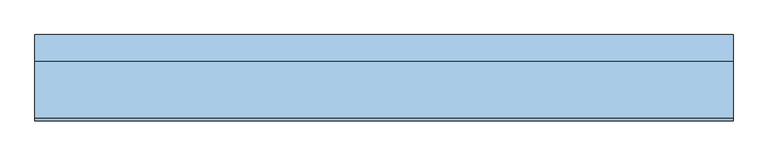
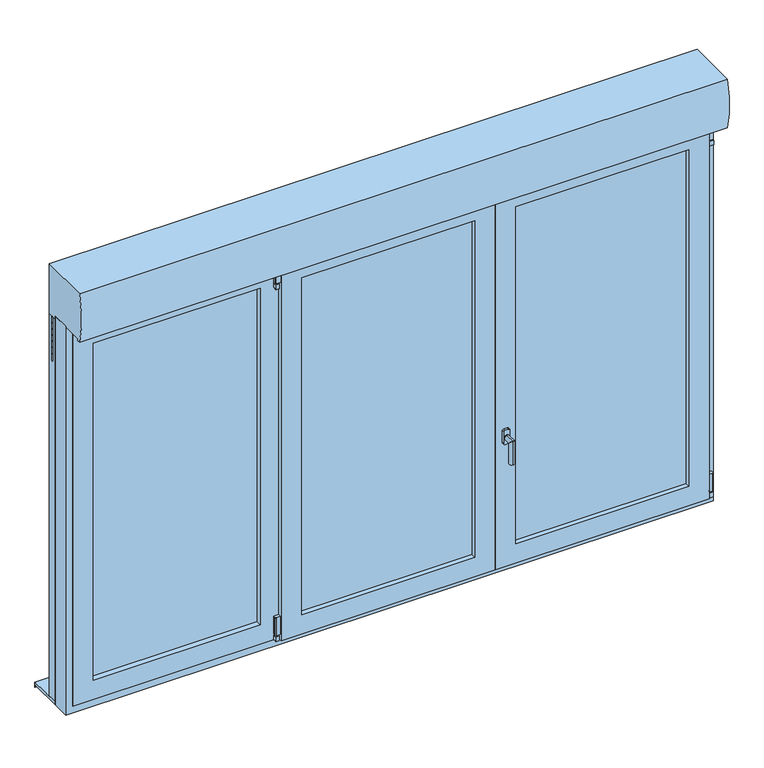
"""IFC4 building model written with IfcOpenShell, lengths in millimetres: window geometry, 4. OF2 + Fixe à G ENR PVC-ALU : OF3 260X165 (LXH) cm + PB."""

from ifc_helpers import new_model, si_unit, point, frame, frame_2d, origin, place, context, project, spatial, polyline, circle_curve, ellipse_curve, trimmed, segment, composite_curve, outline, extrude, faceted_brep, source, transform, mapped, element, save
from ifc_brep_helpers import plane_surface, cylinder_surface, advanced_brep


def window_a7aff2f7(model_context):
    return source(origin(), model_context, "Body", "SolidModel", [
        extrude(outline(composite_curve([segment(trimmed(circle_curve(frame_2d((-458.2805562, -107.5530691)), 5.0), [point((-453.2805562, -107.5530691))], [point((-463.2805562, -107.5530691))], False, "CARTESIAN"), True, "CONTINUOUS"), segment(trimmed(circle_curve(frame_2d((-458.2805562, -107.5530691)), 5.0), [point((-463.2805562, -107.5530691))], [point((-453.2805562, -107.5530691))], False, "CARTESIAN"), True, "CONTINUOUS")], self_intersect=False)), frame((0.0, 0.0, 848.448), z_axis=(0.0, 0.0, 1.0), x_axis=(1.0, 0.0, 0.0)), (0.0, 0.0, 1.0), 5.0),
        extrude(outline(composite_curve([segment(polyline([(848.448, -465.7805562), (830.0982054, -465.7805562)]), True, "CONTINUOUS"), segment(trimmed(circle_curve(frame_2d((830.4216694, -463.8068867)), 2.0), [point((830.0982054, -465.7805562))], [point((828.448, -464.1303507))], False, "CARTESIAN"), True, "CONTINUOUS"), segment(polyline([(828.448, -464.1303507), (828.448, -452.7898059)]), True, "CONTINUOUS"), segment(trimmed(circle_curve(frame_2d((830.4572498, -452.7898059)), 2.0092498), [point((828.448, -452.7898059))], [point((830.4572498, -450.7805562))], False, "CARTESIAN"), True, "CONTINUOUS"), segment(polyline([(830.4572498, -450.7805562), (848.448, -450.7805562), (848.448, -465.7805562)]), True, "CONTINUOUS")], self_intersect=False)), frame((0.0, -115.0434807, 0.0), z_axis=(0.0, 1.0, 0.0), x_axis=(0.0, 0.0, 1.0)), (0.0, 0.0, 1.0), 15.0),
        extrude(outline(composite_curve([segment(polyline([(-445.56, -100.0530691), (-445.56, -115.0530691), (-463.5418225, -115.0530691)]), True, "CONTINUOUS"), segment(trimmed(circle_curve(frame_2d((-463.5418225, -113.0348917)), 2.0181775), [point((-463.5418225, -115.0530691))], [point((-465.56, -113.0348917))], False, "CARTESIAN"), True, "CONTINUOUS"), segment(polyline([(-465.56, -113.0348917), (-465.56, -102.0112454)]), True, "CONTINUOUS"), segment(trimmed(circle_curve(frame_2d((-463.6018237, -102.0112454)), 1.9581763), [point((-465.56, -102.0112454))], [point((-463.6018237, -100.0530691))], False, "CARTESIAN"), True, "CONTINUOUS"), segment(polyline([(-463.6018237, -100.0530691), (-445.56, -100.0530691)]), True, "CONTINUOUS")], self_intersect=False)), frame((0.0, 0.0, 853.448), z_axis=(0.0, 0.0, 1.0), x_axis=(1.0, 0.0, 0.0)), (0.0, 0.0, 1.0), 75.0),
        extrude(outline(composite_curve([segment(polyline([(2401.552, -450.56), (2419.5843246, -450.56)]), True, "CONTINUOUS"), segment(trimmed(circle_curve(frame_2d((2419.5843246, -452.5276754)), 1.9676754), [point((2419.5843246, -450.56))], [point((2421.552, -452.5276754))], False, "CARTESIAN"), True, "CONTINUOUS"), segment(polyline([(2421.552, -452.5276754), (2421.552, -463.5663831)]), True, "CONTINUOUS"), segment(trimmed(circle_curve(frame_2d((2419.5583831, -463.5663831)), 1.9936169), [point((2421.552, -463.5663831))], [point((2419.5583831, -465.56))], False, "CARTESIAN"), True, "CONTINUOUS"), segment(polyline([(2419.5583831, -465.56), (2401.552, -465.56), (2401.552, -450.56)]), True, "CONTINUOUS")], self_intersect=False)), frame((0.0, -115.881543, 0.0), z_axis=(0.0, 1.0, 0.0), x_axis=(0.0, 0.0, 1.0)), (0.0, 0.0, 1.0), 15.0),
        extrude(outline(composite_curve([segment(trimmed(circle_curve(frame_2d((-458.2805562, -108.3911314)), 5.0), [point((-453.2805562, -108.3911314))], [point((-463.2805562, -108.3911314))], False, "CARTESIAN"), True, "CONTINUOUS"), segment(trimmed(circle_curve(frame_2d((-458.2805562, -108.3911314)), 5.0), [point((-463.2805562, -108.3911314))], [point((-453.2805562, -108.3911314))], False, "CARTESIAN"), True, "CONTINUOUS")], self_intersect=False)), frame((0.0, 0.0, 2341.552), z_axis=(0.0, 0.0, 1.0), x_axis=(1.0, 0.0, 0.0)), (0.0, 0.0, 1.0), 60.0),
        extrude(outline(composite_curve([segment(polyline([(-445.56, -100.8911314), (-445.56, -115.8911314), (-463.5418225, -115.8911314)]), True, "CONTINUOUS"), segment(trimmed(circle_curve(frame_2d((-463.5418225, -113.8729539)), 2.0181775), [point((-463.5418225, -115.8911314))], [point((-465.56, -113.8729539))], False, "CARTESIAN"), True, "CONTINUOUS"), segment(polyline([(-465.56, -113.8729539), (-465.56, -102.8493076)]), True, "CONTINUOUS"), segment(trimmed(circle_curve(frame_2d((-463.6018237, -102.8493076)), 1.9581763), [point((-465.56, -102.8493076))], [point((-463.6018237, -100.8911314))], False, "CARTESIAN"), True, "CONTINUOUS"), segment(polyline([(-463.6018237, -100.8911314), (-445.56, -100.8911314)]), True, "CONTINUOUS")], self_intersect=False)), frame((0.0, 0.0, 2347.2784618), z_axis=(0.0, 0.0, 1.0), x_axis=(1.0, 0.0, 0.0)), (0.0, 0.0, 1.0), 50.0),
        extrude(outline(composite_curve([segment(polyline([(2342.2784618, -465.7805562), (2323.9286672, -465.7805562)]), True, "CONTINUOUS"), segment(trimmed(circle_curve(frame_2d((2324.2521312, -463.8068867)), 2.0), [point((2323.9286672, -465.7805562))], [point((2322.2784618, -464.1303507))], False, "CARTESIAN"), True, "CONTINUOUS"), segment(polyline([(2322.2784618, -464.1303507), (2322.2784618, -452.7898059)]), True, "CONTINUOUS"), segment(trimmed(circle_curve(frame_2d((2324.2877116, -452.7898059)), 2.0092498), [point((2322.2784618, -452.7898059))], [point((2324.2877116, -450.7805562))], False, "CARTESIAN"), True, "CONTINUOUS"), segment(polyline([(2324.2877116, -450.7805562), (2342.2784618, -450.7805562), (2342.2784618, -465.7805562)]), True, "CONTINUOUS")], self_intersect=False)), frame((0.0, -115.881543, 0.0), z_axis=(0.0, 1.0, 0.0), x_axis=(0.0, 0.0, 1.0)), (0.0, 0.0, 1.0), 15.0),
        extrude(outline(composite_curve([segment(polyline([(2401.552, 1276.56), (2401.552, 1291.56), (2419.5583831, 1291.56)]), True, "CONTINUOUS"), segment(trimmed(circle_curve(frame_2d((2419.5583831, 1289.5663831)), 1.9936169), [point((2419.5583831, 1291.56))], [point((2421.552, 1289.5663831))], False, "CARTESIAN"), True, "CONTINUOUS"), segment(polyline([(2421.552, 1289.5663831), (2421.552, 1278.5276754)]), True, "CONTINUOUS"), segment(trimmed(circle_curve(frame_2d((2419.5843246, 1278.5276754)), 1.9676754), [point((2421.552, 1278.5276754))], [point((2419.5843246, 1276.56))], False, "CARTESIAN"), True, "CONTINUOUS"), segment(polyline([(2419.5843246, 1276.56), (2401.552, 1276.56)]), True, "CONTINUOUS")], self_intersect=False)), frame((0.0, -115.881543, 0.0), z_axis=(0.0, 1.0, 0.0), x_axis=(0.0, 0.0, 1.0)), (0.0, 0.0, 1.0), 15.0),
        extrude(outline(composite_curve([segment(trimmed(circle_curve(frame_2d((1284.2805562, -108.3911314)), 5.0), [point((1279.2805562, -108.3911314))], [point((1289.2805562, -108.3911314))], False, "CARTESIAN"), True, "CONTINUOUS"), segment(trimmed(circle_curve(frame_2d((1284.2805562, -108.3911314)), 5.0), [point((1289.2805562, -108.3911314))], [point((1279.2805562, -108.3911314))], False, "CARTESIAN"), True, "CONTINUOUS")], self_intersect=False)), frame((0.0, 0.0, 2341.552), z_axis=(0.0, 0.0, 1.0), x_axis=(1.0, 0.0, 0.0)), (0.0, 0.0, 1.0), 60.0),
        extrude(outline(composite_curve([segment(polyline([(1271.56, -100.8911314), (1289.6018237, -100.8911314)]), True, "CONTINUOUS"), segment(trimmed(circle_curve(frame_2d((1289.6018237, -102.8493076)), 1.9581763), [point((1289.6018237, -100.8911314))], [point((1291.56, -102.8493076))], False, "CARTESIAN"), True, "CONTINUOUS"), segment(polyline([(1291.56, -102.8493076), (1291.56, -113.8729539)]), True, "CONTINUOUS"), segment(trimmed(circle_curve(frame_2d((1289.5418225, -113.8729539)), 2.0181775), [point((1291.56, -113.8729539))], [point((1289.5418225, -115.8911314))], False, "CARTESIAN"), True, "CONTINUOUS"), segment(polyline([(1289.5418225, -115.8911314), (1271.56, -115.8911314), (1271.56, -100.8911314)]), True, "CONTINUOUS")], self_intersect=False)), frame((0.0, 0.0, 2347.2784618), z_axis=(0.0, 0.0, 1.0), x_axis=(1.0, 0.0, 0.0)), (0.0, 0.0, 1.0), 50.0),
        extrude(outline(composite_curve([segment(polyline([(2342.2784618, 1291.7805562), (2342.2784618, 1276.7805562), (2324.2877116, 1276.7805562)]), True, "CONTINUOUS"), segment(trimmed(circle_curve(frame_2d((2324.2877116, 1278.7898059)), 2.0092498), [point((2324.2877116, 1276.7805562))], [point((2322.2784618, 1278.7898059))], False, "CARTESIAN"), True, "CONTINUOUS"), segment(polyline([(2322.2784618, 1278.7898059), (2322.2784618, 1290.1303507)]), True, "CONTINUOUS"), segment(trimmed(circle_curve(frame_2d((2324.2521312, 1289.8068867)), 2.0), [point((2322.2784618, 1290.1303507))], [point((2323.9286672, 1291.7805562))], False, "CARTESIAN"), True, "CONTINUOUS"), segment(polyline([(2323.9286672, 1291.7805562), (2342.2784618, 1291.7805562)]), True, "CONTINUOUS")], self_intersect=False)), frame((0.0, -115.881543, 0.0), z_axis=(0.0, 1.0, 0.0), x_axis=(0.0, 0.0, 1.0)), (0.0, 0.0, 1.0), 15.0),
        extrude(outline(composite_curve([segment(trimmed(circle_curve(frame_2d((1284.2805562, -107.5530691)), 5.0), [point((1279.2805562, -107.5530691))], [point((1289.2805562, -107.5530691))], False, "CARTESIAN"), True, "CONTINUOUS"), segment(trimmed(circle_curve(frame_2d((1284.2805562, -107.5530691)), 5.0), [point((1289.2805562, -107.5530691))], [point((1279.2805562, -107.5530691))], False, "CARTESIAN"), True, "CONTINUOUS")], self_intersect=False)), frame((0.0, 0.0, 848.448), z_axis=(0.0, 0.0, 1.0), x_axis=(1.0, 0.0, 0.0)), (0.0, 0.0, 1.0), 5.0),
        extrude(outline(composite_curve([segment(polyline([(848.448, 1291.7805562), (848.448, 1276.7805562), (830.4572498, 1276.7805562)]), True, "CONTINUOUS"), segment(trimmed(circle_curve(frame_2d((830.4572498, 1278.7898059)), 2.0092498), [point((830.4572498, 1276.7805562))], [point((828.448, 1278.7898059))], False, "CARTESIAN"), True, "CONTINUOUS"), segment(polyline([(828.448, 1278.7898059), (828.448, 1290.1303507)]), True, "CONTINUOUS"), segment(trimmed(circle_curve(frame_2d((830.4216694, 1289.8068867)), 2.0), [point((828.448, 1290.1303507))], [point((830.0982054, 1291.7805562))], False, "CARTESIAN"), True, "CONTINUOUS"), segment(polyline([(830.0982054, 1291.7805562), (848.448, 1291.7805562)]), True, "CONTINUOUS")], self_intersect=False)), frame((0.0, -115.0434807, 0.0), z_axis=(0.0, 1.0, 0.0), x_axis=(0.0, 0.0, 1.0)), (0.0, 0.0, 1.0), 15.0),
        extrude(outline(composite_curve([segment(polyline([(1271.56, -100.0530691), (1289.6018237, -100.0530691)]), True, "CONTINUOUS"), segment(trimmed(circle_curve(frame_2d((1289.6018237, -102.0112454)), 1.9581763), [point((1289.6018237, -100.0530691))], [point((1291.56, -102.0112454))], False, "CARTESIAN"), True, "CONTINUOUS"), segment(polyline([(1291.56, -102.0112454), (1291.56, -113.0348917)]), True, "CONTINUOUS"), segment(trimmed(circle_curve(frame_2d((1289.5418225, -113.0348917)), 2.0181775), [point((1291.56, -113.0348917))], [point((1289.5418225, -115.0530691))], False, "CARTESIAN"), True, "CONTINUOUS"), segment(polyline([(1289.5418225, -115.0530691), (1271.56, -115.0530691), (1271.56, -100.0530691)]), True, "CONTINUOUS")], self_intersect=False)), frame((0.0, 0.0, 853.448), z_axis=(0.0, 0.0, 1.0), x_axis=(1.0, 0.0, 0.0)), (0.0, 0.0, 1.0), 75.0),
        advanced_brep(
        [(461.5, -129.3239543, 1414.448), (446.5, -129.3239543, 1414.448), (441.5, -129.3239543, 1409.448), (441.5, -129.3239543, 1359.448), (446.5, -129.3239543, 1354.448), (461.5, -129.3239543, 1354.448), (466.5, -129.3239543, 1359.448), (466.5, -129.3239543, 1409.448), (454.2771873, -129.3239543, 1392.2518349), (454.2771873, -129.3239543, 1372.2518349), (461.5, -117.4674689, 1414.448), (466.5, -117.4674689, 1409.448), (466.5, -117.4674689, 1359.448), (461.5, -117.4674689, 1354.448), (446.5, -117.4674689, 1354.448), (441.5, -117.4674689, 1359.448), (441.5, -117.4674689, 1409.448), (446.5, -117.4674689, 1414.448), (454.2771873, -133.0531938, 1372.2518349), (454.2771873, -133.0531938, 1392.2518349), (454.2771873, -173.0531938, 1392.2518349), (454.2771873, -153.0531938, 1372.2518349), (454.2771873, -173.0531938, 1292.2518349), (454.2771873, -153.0531938, 1292.2518349)],
        [
            (0, 1),
            (1, 2, circle_curve(frame((446.5, -129.3239543, 1409.448), z_axis=(0.0, -1.0, 0.0), x_axis=(-1.0, 0.0, 0.0)), 5.0)),
            (2, 3),
            (3, 4, circle_curve(frame((446.5, -129.3239543, 1359.448), z_axis=(0.0, -1.0, 0.0), x_axis=(-1.0, 0.0, 0.0)), 5.0)),
            (4, 5),
            (5, 6, circle_curve(frame((461.5, -129.3239543, 1359.448), z_axis=(0.0, -1.0, 0.0), x_axis=(-1.0, 0.0, 0.0)), 5.0)),
            (6, 7),
            (7, 0, circle_curve(frame((461.5, -129.3239543, 1409.448), z_axis=(0.0, -1.0, 0.0), x_axis=(-1.0, 0.0, 0.0)), 5.0)),
            (8, 9, circle_curve(frame((454.2771873, -129.3239543, 1382.2518349), z_axis=(0.0, 1.0, 0.0), x_axis=(0.0, 0.0, -1.0)), 10.0)),
            (9, 8, circle_curve(frame((454.2771873, -129.3239543, 1382.2518349), z_axis=(0.0, 1.0, 0.0), x_axis=(0.0, 0.0, -1.0)), 10.0)),
            (10, 11, circle_curve(frame((461.5, -117.4674689, 1409.448), z_axis=(0.0, 1.0, 0.0), x_axis=(-1.0, 0.0, 0.0)), 5.0)),
            (11, 12),
            (12, 13, circle_curve(frame((461.5, -117.4674689, 1359.448), z_axis=(0.0, 1.0, 0.0), x_axis=(-1.0, 0.0, 0.0)), 5.0)),
            (13, 14),
            (14, 15, circle_curve(frame((446.5, -117.4674689, 1359.448), z_axis=(0.0, 1.0, 0.0), x_axis=(-1.0, 0.0, 0.0)), 5.0)),
            (15, 16),
            (16, 17, circle_curve(frame((446.5, -117.4674689, 1409.448), z_axis=(0.0, 1.0, 0.0), x_axis=(-1.0, 0.0, 0.0)), 5.0)),
            (17, 10),
            (7, 11),
            (10, 0),
            (6, 12),
            (5, 13),
            (4, 14),
            (3, 15),
            (2, 16),
            (1, 17),
            (18, 19, circle_curve(frame((454.2771873, -133.0531938, 1382.2518349), z_axis=(0.0, -1.0, 0.0), x_axis=(0.0, 0.0, -1.0)), 10.0)),
            (19, 20),
            (20, 21, ellipse_curve(frame((454.2771873, -163.0531938, 1382.2518349), z_axis=(0.0, 0.7071067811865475, 0.7071067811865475), x_axis=(0.0, 0.7071067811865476, -0.7071067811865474)), 14.1421356, 10.0)),
            (21, 18),
            (19, 18, circle_curve(frame((454.2771873, -133.0531938, 1382.2518349), z_axis=(0.0, -1.0, 0.0), x_axis=(0.0, 0.0, -1.0)), 10.0)),
            (21, 20, ellipse_curve(frame((454.2771873, -163.0531938, 1382.2518349), z_axis=(0.0, 0.7071067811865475, 0.7071067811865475), x_axis=(0.0, 0.7071067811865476, -0.7071067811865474)), 14.1421356, 10.0)),
            (22, 23, circle_curve(frame((454.2771873, -163.0531938, 1292.2518349), z_axis=(0.0, 0.0, -1.0), x_axis=(0.0, 1.0, 0.0)), 10.0)),
            (23, 22, circle_curve(frame((454.2771873, -163.0531938, 1292.2518349), z_axis=(0.0, 0.0, -1.0), x_axis=(0.0, 1.0, 0.0)), 10.0)),
            (20, 22),
            (23, 21),
            (18, 9),
            (8, 19),
        ],
        [
            plane_surface(frame((456.5, -129.3239543, 1409.448), z_axis=(0.0, -1.0, 0.0), x_axis=(0.0, 0.0, -1.0))),
            plane_surface(frame((456.5, -117.4674689, 1409.448), z_axis=(0.0, 1.0, 0.0), x_axis=(0.0, 0.0, 1.0))),
            cylinder_surface(frame((461.5, -129.3239543, 1409.448), z_axis=(0.0, 1.0, 0.0), x_axis=(-1.0, 0.0, 0.0)), 5.0),
            plane_surface(frame((466.5, -117.4674689, 1409.448), z_axis=(1.0, 0.0, 0.0), x_axis=(0.0, -1.0, 0.0))),
            cylinder_surface(frame((461.5, -129.3239543, 1359.448), z_axis=(0.0, 1.0, 0.0), x_axis=(-1.0, 0.0, 0.0)), 5.0),
            plane_surface(frame((461.5, -117.4674689, 1354.448), z_axis=(0.0, 0.0, -1.0), x_axis=(0.0, -1.0, 0.0))),
            cylinder_surface(frame((446.5, -129.3239543, 1359.448), z_axis=(0.0, 1.0, 0.0), x_axis=(-1.0, 0.0, 0.0)), 5.0),
            plane_surface(frame((441.5, -117.4674689, 1359.448), z_axis=(-1.0, 0.0, 0.0), x_axis=(0.0, -1.0, 0.0))),
            cylinder_surface(frame((446.5, -129.3239543, 1409.448), z_axis=(0.0, 1.0, 0.0), x_axis=(-1.0, 0.0, 0.0)), 5.0),
            plane_surface(frame((446.5, -117.4674689, 1414.448), z_axis=(0.0, 0.0, 1.0), x_axis=(0.0, -1.0, 0.0))),
            cylinder_surface(frame((454.2771873, -133.0531938, 1382.2518349), z_axis=(0.0, 1.0, 0.0), x_axis=(0.0, 0.0, -1.0)), 10.0),
            plane_surface(frame((466.5, -163.0531938, 1292.2518349), z_axis=(0.0, 0.0, -1.0), x_axis=(1.0, 0.0, 0.0))),
            cylinder_surface(frame((454.2771873, -163.0531938, 1382.2518349), z_axis=(0.0, 0.0, 1.0), x_axis=(0.0, 1.0, 0.0)), 10.0),
            cylinder_surface(frame((454.2771873, -129.3239543, 1382.2518349), z_axis=(0.0, 1.0, 0.0), x_axis=(0.0, 0.0, -1.0)), 10.0),
        ],
        [
            (0, [[1, 2, 3, 4, 5, 6, 7, 8], [9, 10]]),
            (1, [[11, 12, 13, 14, 15, 16, 17, 18]]),
            (2, [[-8, 19, -11, 20]]),
            (3, [[-7, 21, -12, -19]]),
            (4, [[-6, 22, -13, -21]]),
            (5, [[-5, 23, -14, -22]]),
            (6, [[-4, 24, -15, -23]]),
            (7, [[-3, 25, -16, -24]]),
            (8, [[-2, 26, -17, -25]]),
            (9, [[-1, -20, -18, -26]]),
            (10, [[27, 28, 29, 30]]),
            (10, [[-28, 31, -30, 32]]),
            (11, [[33, 34]]),
            (12, [[-29, 35, -34, 36]]),
            (12, [[-32, -36, -33, -35]]),
            (13, [[-27, 37, -9, 38]]),
            (13, [[-31, -38, -10, -37]]),
        ],
    ),
        faceted_brep([(-1300.0, -100.02, 2450.0), (-1300.0, -28.9, 2450.0), (-1300.0, -28.9, 800.0), (-1300.0, -100.02, 800.0), (1300.0, -28.9, 2450.0), (1300.0, -28.9, 800.0), (-1242.0983858, -28.9, 857.9016142), (1242.0983858, -28.9, 857.9016142), (1242.0983858, -28.9, 2392.0983858), (-1242.0983858, -28.9, 2392.0983858), (1300.0, -100.02, 800.0), (1300.0, -100.02, 2450.0), (-1263.424, -100.02, 2413.424), (1263.424, -100.02, 2413.424), (1263.424, -100.02, 836.576), (-1263.424, -100.02, 836.576), (-1263.424, -44.648, 2413.424), (-1263.424, -44.648, 836.576), (1263.424, -44.648, 836.576), (1263.424, -44.648, 2413.424), (-1242.0983858, -44.648, 2392.0983858), (1242.0983858, -44.648, 2392.0983858), (1242.0983858, -44.648, 857.9016142), (-1242.0983858, -44.648, 857.9016142)], [[[0, 1, 2, 3]], [[1, 4, 5, 2], [6, 7, 8, 9]], [[3, 2, 5, 10]], [[3, 10, 11, 0], [12, 13, 14, 15]], [[16, 12, 15, 17]], [[17, 15, 14, 18]], [[17, 18, 19, 16], [20, 21, 22, 23]], [[9, 20, 23, 6]], [[6, 23, 22, 7]], [[10, 5, 4, 11]], [[18, 14, 13, 19]], [[7, 22, 21, 8]], [[11, 4, 1, 0]], [[19, 13, 12, 16]], [[8, 21, 20, 9]]]),
        extrude(outline(polyline([(-1203.4, -54.213906), (-1203.4, -50.213906), (-505.5, -50.213906), (-505.5, -54.213906), (-1203.4, -54.213906)])), frame((0.0, 0.0, 896.5824883), z_axis=(0.0, 0.0, 1.0), x_axis=(1.0, 0.0, 0.0)), (0.0, 0.0, 1.0), 1456.8350233),
        extrude(outline(polyline([(-1203.4, -78.213906), (-1203.4, -74.213906), (-505.5, -74.213906), (-505.5, -78.213906), (-1203.4, -78.213906)])), frame((0.0, 0.0, 896.5824883), z_axis=(0.0, 0.0, 1.0), x_axis=(1.0, 0.0, 0.0)), (0.0, 0.0, 1.0), 1456.8350233),
        extrude(outline(polyline([(-377.4, -100.019954), (-377.4, -96.019954), (344.9, -96.019954), (344.9, -100.019954), (-377.4, -100.019954)])), frame((0.0, 0.0, 896.5824883), z_axis=(0.0, 0.0, 1.0), x_axis=(1.0, 0.0, 0.0)), (0.0, 0.0, 1.0), 1456.8350233),
        extrude(outline(polyline([(-377.4, -72.9786213), (-377.4, -68.9786213), (344.9, -68.9786213), (344.9, -72.9786213), (-377.4, -72.9786213)])), frame((0.0, 0.0, 896.5824883), z_axis=(0.0, 0.0, 1.0), x_axis=(1.0, 0.0, 0.0)), (0.0, 0.0, 1.0), 1456.8350233),
        extrude(outline(polyline([(-377.4, -47.5821328), (-377.4, -41.5821328), (344.9, -41.5821328), (344.9, -47.5821328), (-377.4, -47.5821328)])), frame((0.0, 0.0, 896.5824883), z_axis=(0.0, 0.0, 1.0), x_axis=(1.0, 0.0, 0.0)), (0.0, 0.0, 1.0), 1456.8350233),
        extrude(outline(polyline([(1203.4, -96.019954), (1203.4, -100.019954), (481.1, -100.019954), (481.1, -96.019954), (1203.4, -96.019954)])), frame((0.0, 0.0, 896.5824883), z_axis=(0.0, 0.0, 1.0), x_axis=(1.0, 0.0, 0.0)), (0.0, 0.0, 1.0), 1456.8350233),
        extrude(outline(polyline([(1203.4, -68.9786213), (1203.4, -72.9786213), (481.1, -72.9786213), (481.1, -68.9786213), (1203.4, -68.9786213)])), frame((0.0, 0.0, 896.5824883), z_axis=(0.0, 0.0, 1.0), x_axis=(1.0, 0.0, 0.0)), (0.0, 0.0, 1.0), 1456.8350233),
        extrude(outline(polyline([(1203.4, -41.5821328), (1203.4, -47.5821328), (481.1, -47.5821328), (481.1, -41.5821328), (1203.4, -41.5821328)])), frame((0.0, 0.0, 896.5824883), z_axis=(0.0, 0.0, 1.0), x_axis=(1.0, 0.0, 0.0)), (0.0, 0.0, 1.0), 1456.8350233),
        extrude(outline(polyline([(392.68, -100.0434807), (392.68, -44.648), (377.9954701, -44.648), (377.9954701, -28.7475756), (447.9965299, -28.7475756), (447.9965299, -44.648), (433.32, -44.648), (433.32, -100.0434807), (392.68, -100.0434807)])), frame((0.0, 0.0, 857.9016142), z_axis=(0.0, 0.0, 1.0), x_axis=(1.0, 0.0, 0.0)), (0.0, 0.0, 1.0), 1534.2),
        extrude(outline(polyline([(-410.5594701, -28.9), (-410.5594701, -44.648), (-425.24, -44.648), (-425.24, -100.0), (-437.432, -100.0), (-437.432, -44.648), (-466.8856142, -44.648), (-466.8856142, -28.9), (-410.5594701, -28.9)])), frame((0.0, 0.0, 857.9016142), z_axis=(0.0, 0.0, 1.0), x_axis=(1.0, 0.0, 0.0)), (0.0, 0.0, 1.0), 1534.2),
        faceted_brep([(-466.8856142, -28.9, 2392.0983858), (-466.8856142, -44.648, 2392.0983858), (-466.8856142, -44.648, 857.9016142), (-466.8856142, -28.9, 857.9016142), (-437.432, -44.648, 828.448), (-1271.56, -44.648, 828.448), (-1271.56, -44.648, 2421.552), (-437.432, -44.648, 2421.552), (-1242.1063858, -44.648, 2392.0983858), (-1242.1063858, -44.648, 857.9016142), (-1242.1063858, -28.9, 857.9016142), (-1242.1063858, -28.9, 2392.0983858), (-519.4599508, -28.9, 2339.5240492), (-1189.5320492, -28.9, 2339.5240492), (-1189.5320492, -28.9, 910.4759508), (-519.4599508, -28.9, 910.4759508), (-1189.5320492, -50.213906, 910.4759508), (-1189.5320492, -50.213906, 2339.5240492), (-519.4599508, -50.213906, 910.4759508), (-519.4599508, -50.213906, 2339.5240492), (-437.432, -100.963906, 828.448), (-1271.56, -100.963906, 828.448), (-1271.56, -100.963906, 2421.552), (-437.432, -100.963906, 2421.552), (-519.4599508, -100.963906, 910.4759508), (-1189.5320492, -100.963906, 910.4759508), (-1189.5320492, -100.963906, 2339.5240492), (-519.4599508, -100.963906, 2339.5240492), (-519.4599508, -78.213906, 910.4759508), (-1189.5320492, -78.213906, 910.4759508), (-1189.5320492, -78.213906, 2339.5240492), (-519.4599508, -78.213906, 2339.5240492), (-505.5664883, -50.213906, 2353.4175117), (-1203.4255117, -50.213906, 2353.4175117), (-1203.4255117, -50.213906, 896.5824883), (-505.5664883, -50.213906, 896.5824883), (-505.5664883, -54.213906, 2353.4175117), (-505.5664883, -54.213906, 896.5824883), (-1203.4255117, -54.213906, 896.5824883), (-1203.4255117, -54.213906, 2353.4175117), (-519.4599508, -54.213906, 2339.5240492), (-1189.5320492, -54.213906, 2339.5240492), (-1189.5320492, -54.213906, 910.4759508), (-519.4599508, -54.213906, 910.4759508), (-505.5664883, -78.213906, 896.5824883), (-1203.4255117, -78.213906, 896.5824883), (-1203.4255117, -78.213906, 2353.4175117), (-505.5664883, -78.213906, 2353.4175117), (-1189.5320492, -74.213906, 910.4759508), (-1189.5320492, -74.213906, 2339.5240492), (-519.4599508, -74.213906, 910.4759508), (-519.4599508, -74.213906, 2339.5240492), (-505.5664883, -74.213906, 2353.4175117), (-1203.4255117, -74.213906, 2353.4175117), (-1203.4255117, -74.213906, 896.5824883), (-505.5664883, -74.213906, 896.5824883)], [[[0, 1, 2, 3]], [[4, 5, 6, 7], [1, 8, 9, 2]], [[3, 2, 9, 10]], [[3, 10, 11, 0], [12, 13, 14, 15]], [[10, 9, 8, 11]], [[16, 14, 13, 17]], [[18, 15, 14, 16]], [[19, 12, 15, 18]], [[4, 20, 21, 5]], [[5, 21, 22, 6]], [[23, 20, 4, 7]], [[23, 22, 21, 20], [24, 25, 26, 27]], [[24, 28, 29, 25]], [[25, 29, 30, 26]], [[27, 31, 28, 24]], [[32, 33, 34, 35], [18, 16, 17, 19]], [[36, 32, 35, 37]], [[37, 35, 34, 38]], [[37, 38, 39, 36], [40, 41, 42, 43]], [[44, 45, 46, 47], [31, 30, 29, 28]], [[38, 34, 33, 39]], [[48, 42, 41, 49]], [[50, 43, 42, 48]], [[51, 40, 43, 50]], [[52, 53, 54, 55], [50, 48, 49, 51]], [[47, 52, 55, 44]], [[44, 55, 54, 45]], [[45, 54, 53, 46]], [[11, 8, 1, 0]], [[17, 13, 12, 19]], [[6, 22, 23, 7]], [[26, 30, 31, 27]], [[39, 33, 32, 36]], [[49, 41, 40, 51]], [[46, 53, 52, 47]]]),
        faceted_brep([(-385.6166701, -100.019954, 2361.6086701), (-385.6166701, -48.2039543, 2361.6086701), (-385.6166701, -48.2039543, 888.3913299), (-385.6166701, -100.019954, 888.3913299), (-410.5594701, -48.2039543, 2386.5514701), (-410.5594701, -48.2039543, 863.4485299), (377.9954701, -48.2039543, 863.4485299), (377.9954701, -48.2039543, 2386.5514701), (353.0526701, -48.2039543, 2361.6086701), (353.0526701, -48.2039543, 888.3913299), (353.0526701, -100.019954, 888.3913299), (353.0526701, -100.019954, 2361.6086701), (344.8615117, -100.019954, 2353.4175117), (344.8615117, -100.019954, 896.5824883), (-377.4255117, -100.019954, 896.5824883), (-377.4255117, -100.019954, 2353.4175117), (-410.5594701, -28.7475756, 2386.5514701), (-410.5594701, -28.7475756, 863.4485299), (377.9954701, -28.7475756, 2386.5514701), (377.9954701, -28.7475756, 863.4485299), (-359.3473386, -28.7475756, 2335.3393386), (-359.3473386, -28.7475756, 914.6606614), (326.7833386, -28.7475756, 914.6606614), (326.7833386, -28.7475756, 2335.3393386), (-359.3473386, -41.5821328, 2335.3393386), (-359.3473386, -41.5821328, 914.6606614), (-377.4255117, -41.5821328, 2353.4175117), (-377.4255117, -41.5821328, 896.5824883), (344.8615117, -41.5821328, 896.5824883), (344.8615117, -41.5821328, 2353.4175117), (326.7833386, -41.5821328, 2335.3393386), (326.7833386, -41.5821328, 914.6606614), (-360.2054041, -47.5821328, 2336.1974041), (-360.2054041, -68.9786213, 2336.1974041), (-360.2054041, -68.9786213, 913.8025959), (-360.2054041, -47.5821328, 913.8025959), (-377.4255117, -68.9786213, 2353.4175117), (-377.4255117, -68.9786213, 896.5824883), (344.8615117, -68.9786213, 896.5824883), (344.8615117, -68.9786213, 2353.4175117), (327.6414041, -68.9786213, 2336.1974041), (327.6414041, -68.9786213, 913.8025959), (327.6414041, -47.5821328, 913.8025959), (344.8615117, -47.5821328, 2353.4175117), (344.8615117, -47.5821328, 896.5824883), (-377.4255117, -47.5821328, 896.5824883), (-377.4255117, -47.5821328, 2353.4175117), (327.6414041, -47.5821328, 2336.1974041), (-363.5320492, -72.9786213, 2339.5240492), (-363.5320492, -96.019954, 2339.5240492), (-363.5320492, -96.019954, 910.4759508), (-363.5320492, -72.9786213, 910.4759508), (-377.4255117, -96.019954, 2353.4175117), (-377.4255117, -96.019954, 896.5824883), (344.8615117, -96.019954, 896.5824883), (344.8615117, -96.019954, 2353.4175117), (330.9680492, -96.019954, 2339.5240492), (330.9680492, -96.019954, 910.4759508), (330.9680492, -72.9786213, 910.4759508), (344.8615117, -72.9786213, 2353.4175117), (344.8615117, -72.9786213, 896.5824883), (-377.4255117, -72.9786213, 896.5824883), (-377.4255117, -72.9786213, 2353.4175117), (330.9680492, -72.9786213, 2339.5240492)], [[[0, 1, 2, 3]], [[4, 5, 6, 7], [8, 9, 2, 1]], [[3, 2, 9, 10]], [[0, 3, 10, 11], [12, 13, 14, 15]], [[4, 16, 17, 5]], [[18, 19, 17, 16], [20, 21, 22, 23]], [[5, 17, 19, 6]], [[20, 24, 25, 21]], [[26, 27, 28, 29], [30, 31, 25, 24]], [[21, 25, 31, 22]], [[32, 33, 34, 35]], [[36, 37, 38, 39], [40, 41, 34, 33]], [[35, 34, 41, 42]], [[43, 44, 45, 46], [32, 35, 42, 47]], [[48, 49, 50, 51]], [[52, 53, 54, 55], [56, 57, 50, 49]], [[51, 50, 57, 58]], [[59, 60, 61, 62], [48, 51, 58, 63]], [[52, 15, 14, 53]], [[53, 14, 13, 54]], [[26, 46, 45, 27]], [[27, 45, 44, 28]], [[36, 62, 61, 37]], [[37, 61, 60, 38]], [[58, 57, 56, 63]], [[54, 13, 12, 55]], [[10, 9, 8, 11]], [[6, 19, 18, 7]], [[22, 31, 30, 23]], [[28, 44, 43, 29]], [[42, 41, 40, 47]], [[38, 60, 59, 39]], [[11, 8, 1, 0]], [[7, 18, 16, 4]], [[23, 30, 24, 20]], [[47, 40, 33, 32]], [[63, 56, 49, 48]], [[55, 12, 15, 52]], [[29, 43, 46, 26]], [[39, 59, 62, 36]]]),
        faceted_brep([(413.0, -100.0434807, 828.448), (413.0, -119.3239543, 828.448), (-445.56, -119.3239543, 828.448), (-445.56, -100.0434807, 828.448), (-445.56, -119.3239543, 2421.552), (-445.56, -100.0434807, 2421.552), (413.0, -119.3239543, 2421.552), (-363.3585043, -119.3239543, 2339.3505043), (330.7985043, -119.3239543, 2339.3505043), (330.7985043, -119.3239543, 910.6494957), (-363.3585043, -119.3239543, 910.6494957), (413.0, -100.0434807, 2421.552), (-425.24, -100.0434807, 848.768), (392.68, -100.0434807, 848.768), (392.68, -100.0434807, 2401.232), (-425.24, -100.0434807, 2401.232), (330.7985043, -100.019954, 910.6494957), (-363.3585043, -100.019954, 910.6494957), (-363.3585043, -100.019954, 2339.3505043), (-385.6166701, -100.019954, 2361.6086701), (353.0566701, -100.019954, 2361.6086701), (353.0566701, -100.019954, 888.3913299), (-385.6166701, -100.019954, 888.3913299), (330.7985043, -100.019954, 2339.3505043), (353.0566701, -48.2039543, 888.3913299), (-385.6166701, -48.2039543, 888.3913299), (-385.6166701, -48.2039543, 2361.6086701), (-416.1063858, -48.2039543, 2392.0983858), (383.5463858, -48.2039543, 2392.0983858), (383.5463858, -48.2039543, 857.9016142), (-416.1063858, -48.2039543, 857.9016142), (353.0566701, -48.2039543, 2361.6086701), (383.5463858, -44.648, 857.9016142), (-416.1063858, -44.648, 857.9016142), (-416.1063858, -44.648, 2392.0983858), (-425.24, -44.648, 2401.232), (392.68, -44.648, 2401.232), (392.68, -44.648, 848.768), (-425.24, -44.648, 848.768), (383.5463858, -44.648, 2392.0983858)], [[[0, 1, 2, 3]], [[3, 2, 4, 5]], [[2, 1, 6, 4], [7, 8, 9, 10]], [[5, 11, 0, 3], [12, 13, 14, 15]], [[9, 16, 17, 10]], [[10, 17, 18, 7]], [[19, 20, 21, 22], [17, 16, 23, 18]], [[21, 24, 25, 22]], [[22, 25, 26, 19]], [[27, 28, 29, 30], [25, 24, 31, 26]], [[29, 32, 33, 30]], [[30, 33, 34, 27]], [[35, 36, 37, 38], [33, 32, 39, 34]], [[37, 13, 12, 38]], [[38, 12, 15, 35]], [[11, 6, 1, 0]], [[8, 23, 16, 9]], [[20, 31, 24, 21]], [[28, 39, 32, 29]], [[36, 14, 13, 37]], [[5, 4, 6, 11]], [[7, 18, 23, 8]], [[19, 26, 31, 20]], [[27, 34, 39, 28]], [[35, 15, 14, 36]]]),
        faceted_brep([(1211.6086701, -48.2039543, 2361.6086701), (1211.6086701, -100.019954, 2361.6086701), (1211.6086701, -100.019954, 888.3913299), (1211.6086701, -48.2039543, 888.3913299), (472.9393299, -100.019954, 2361.6086701), (472.9393299, -100.019954, 888.3913299), (1203.4175117, -100.019954, 2353.4175117), (1203.4175117, -100.019954, 896.5824883), (481.1304883, -100.019954, 896.5824883), (481.1304883, -100.019954, 2353.4175117), (472.9393299, -48.2039543, 888.3913299), (447.9965299, -48.2039543, 2386.5514701), (447.9965299, -48.2039543, 863.4485299), (1236.5514701, -48.2039543, 863.4485299), (1236.5514701, -48.2039543, 2386.5514701), (472.9393299, -48.2039543, 2361.6086701), (1236.5514701, -28.7475756, 2386.5514701), (1236.5514701, -28.7475756, 863.4485299), (447.9965299, -28.7475756, 863.4485299), (447.9965299, -28.7475756, 2386.5514701), (499.2086614, -28.7475756, 2335.3393386), (499.2086614, -28.7475756, 914.6606614), (1185.3393386, -28.7475756, 914.6606614), (1185.3393386, -28.7475756, 2335.3393386), (1185.3393386, -41.5821328, 2335.3393386), (1185.3393386, -41.5821328, 914.6606614), (499.2086614, -41.5821328, 914.6606614), (481.1304883, -41.5821328, 2353.4175117), (481.1304883, -41.5821328, 896.5824883), (1203.4175117, -41.5821328, 896.5824883), (1203.4175117, -41.5821328, 2353.4175117), (499.2086614, -41.5821328, 2335.3393386), (1186.1974041, -68.9786213, 2336.1974041), (1186.1974041, -47.5821328, 2336.1974041), (1186.1974041, -47.5821328, 913.8025959), (1186.1974041, -68.9786213, 913.8025959), (1203.4175117, -47.5821328, 2353.4175117), (1203.4175117, -47.5821328, 896.5824883), (481.1304883, -47.5821328, 896.5824883), (481.1304883, -47.5821328, 2353.4175117), (498.3505959, -47.5821328, 2336.1974041), (498.3505959, -47.5821328, 913.8025959), (498.3505959, -68.9786213, 913.8025959), (481.1304883, -68.9786213, 2353.4175117), (481.1304883, -68.9786213, 896.5824883), (1203.4175117, -68.9786213, 896.5824883), (1203.4175117, -68.9786213, 2353.4175117), (498.3505959, -68.9786213, 2336.1974041), (1189.5240492, -96.019954, 2339.5240492), (1189.5240492, -72.9786213, 2339.5240492), (1189.5240492, -72.9786213, 910.4759508), (1189.5240492, -96.019954, 910.4759508), (1203.4175117, -72.9786213, 2353.4175117), (1203.4175117, -72.9786213, 896.5824883), (481.1304883, -72.9786213, 896.5824883), (481.1304883, -72.9786213, 2353.4175117), (495.0239508, -72.9786213, 2339.5240492), (495.0239508, -72.9786213, 910.4759508), (495.0239508, -96.019954, 910.4759508), (481.1304883, -96.019954, 2353.4175117), (481.1304883, -96.019954, 896.5824883), (1203.4175117, -96.019954, 896.5824883), (1203.4175117, -96.019954, 2353.4175117), (495.0239508, -96.019954, 2339.5240492)], [[[0, 1, 2, 3]], [[4, 5, 2, 1], [6, 7, 8, 9]], [[3, 2, 5, 10]], [[11, 12, 13, 14], [0, 3, 10, 15]], [[16, 14, 13, 17]], [[17, 13, 12, 18]], [[16, 17, 18, 19], [20, 21, 22, 23]], [[24, 23, 22, 25]], [[25, 22, 21, 26]], [[27, 28, 29, 30], [24, 25, 26, 31]], [[32, 33, 34, 35]], [[36, 37, 38, 39], [40, 41, 34, 33]], [[35, 34, 41, 42]], [[43, 44, 45, 46], [32, 35, 42, 47]], [[48, 49, 50, 51]], [[52, 53, 54, 55], [56, 57, 50, 49]], [[51, 50, 57, 58]], [[59, 60, 61, 62], [48, 51, 58, 63]], [[6, 62, 61, 7]], [[7, 61, 60, 8]], [[36, 30, 29, 37]], [[37, 29, 28, 38]], [[52, 46, 45, 53]], [[53, 45, 44, 54]], [[58, 57, 56, 63]], [[8, 60, 59, 9]], [[10, 5, 4, 15]], [[18, 12, 11, 19]], [[26, 21, 20, 31]], [[38, 28, 27, 39]], [[42, 41, 40, 47]], [[54, 44, 43, 55]], [[15, 4, 1, 0]], [[19, 11, 14, 16]], [[31, 20, 23, 24]], [[47, 40, 33, 32]], [[63, 56, 49, 48]], [[9, 59, 62, 6]], [[39, 27, 30, 36]], [[55, 43, 46, 52]]]),
        faceted_brep([(413.0, -119.3239543, 828.448), (413.0, -100.0434807, 828.448), (1271.56, -100.0434807, 828.448), (1271.56, -119.3239543, 828.448), (1271.56, -100.0434807, 2421.552), (1271.56, -119.3239543, 2421.552), (413.0, -100.0434807, 2421.552), (1251.24, -100.0434807, 2401.232), (433.32, -100.0434807, 2401.232), (433.32, -100.0434807, 848.768), (1251.24, -100.0434807, 848.768), (413.0, -119.3239543, 2421.552), (1189.3585043, -119.3239543, 910.6494957), (495.2014957, -119.3239543, 910.6494957), (495.2014957, -119.3239543, 2339.3505043), (1189.3585043, -119.3239543, 2339.3505043), (495.2014957, -100.019954, 910.6494957), (1189.3585043, -100.019954, 910.6494957), (1189.3585043, -100.019954, 2339.3505043), (1211.6166701, -100.019954, 888.3913299), (472.9433299, -100.019954, 888.3913299), (472.9433299, -100.019954, 2361.6086701), (1211.6166701, -100.019954, 2361.6086701), (495.2014957, -100.019954, 2339.3505043), (472.9433299, -48.2039543, 888.3913299), (1211.6166701, -48.2039543, 888.3913299), (1211.6166701, -48.2039543, 2361.6086701), (1242.1063858, -48.2039543, 857.9016142), (442.4536142, -48.2039543, 857.9016142), (442.4536142, -48.2039543, 2392.0983858), (1242.1063858, -48.2039543, 2392.0983858), (472.9433299, -48.2039543, 2361.6086701), (442.4536142, -44.648, 857.9016142), (1242.1063858, -44.648, 857.9016142), (1242.1063858, -44.648, 2392.0983858), (1251.24, -44.648, 848.768), (433.32, -44.648, 848.768), (433.32, -44.648, 2401.232), (1251.24, -44.648, 2401.232), (442.4536142, -44.648, 2392.0983858)], [[[0, 1, 2, 3]], [[3, 2, 4, 5]], [[2, 1, 6, 4], [7, 8, 9, 10]], [[5, 11, 0, 3], [12, 13, 14, 15]], [[16, 13, 12, 17]], [[17, 12, 15, 18]], [[19, 20, 21, 22], [18, 23, 16, 17]], [[24, 20, 19, 25]], [[25, 19, 22, 26]], [[27, 28, 29, 30], [26, 31, 24, 25]], [[32, 28, 27, 33]], [[33, 27, 30, 34]], [[35, 36, 37, 38], [34, 39, 32, 33]], [[9, 36, 35, 10]], [[10, 35, 38, 7]], [[11, 6, 1, 0]], [[23, 14, 13, 16]], [[31, 21, 20, 24]], [[39, 29, 28, 32]], [[8, 37, 36, 9]], [[5, 4, 6, 11]], [[18, 15, 14, 23]], [[26, 22, 21, 31]], [[34, 30, 29, 39]], [[7, 38, 37, 8]]]),
        extrude(outline(composite_curve([segment(polyline([(-186.3991192, 2440.3409737), (-197.3316724, 2440.3409737)]), True, "CONTINUOUS"), segment(trimmed(circle_curve(frame_2d((189.1050523, 2543.6204869)), 400.0), [point((-197.3316724, 2440.3409737))], [point((-197.3316724, 2646.9))], False, "CARTESIAN"), True, "CONTINUOUS"), segment(polyline([(-197.3316724, 2646.9), (13.0999994, 2646.9), (13.0999994, 2436.0216226), (-4.9499979, 2436.0216226), (-4.9499979, 2434.2216225), (-2.7215215, 2434.2216225), (-2.7215215, 2409.9791617), (-4.9499979, 2409.9791617), (-4.9499979, 2408.1791616), (-2.7215215, 2408.1791616), (-2.7215215, 2383.9367008), (-4.9499979, 2383.9367008), (-4.9499979, 2382.1367006), (-2.7215215, 2382.1367006), (-2.7215215, 2357.8942398), (-4.9499979, 2357.8942398), (-4.9499979, 2356.0942397), (-2.7215215, 2356.0942397), (-2.7215215, 2331.8517789), (-4.9499979, 2331.8517789), (-4.9499979, 2330.0517788), (-2.7215215, 2330.0517788), (-2.7215215, 2305.809318), (-4.9499979, 2305.809318), (-4.9499979, 2304.0093179), (-2.7215215, 2304.0093179), (-2.7215215, 2279.7668571), (-4.9499979, 2279.7668571), (-4.9499979, 2277.966857), (-2.7215215, 2277.966857), (-2.7215215, 2253.7243961), (-4.9499979, 2253.7243961), (-4.9499979, 2251.9243963), (-3.044091, 2251.9243963), (-3.044091, 2248.977424), (-6.4, 2245.6232688), (-9.8999992, 2248.9774251), (-9.8999992, 2251.9243963), (-7.7499979, 2251.9243963), (-7.7499979, 2253.7243961), (-9.9999979, 2253.7243961), (-9.9999979, 2277.9668572), (-7.7499979, 2277.9668572), (-7.7499979, 2279.7668571), (-9.9999979, 2279.7668571), (-9.9999979, 2304.0093181), (-7.7499979, 2304.0093181), (-7.7499979, 2305.809318), (-9.9999979, 2305.809318), (-9.9999979, 2330.051779), (-7.7499979, 2330.051779), (-7.7499979, 2331.8517789), (-9.9999979, 2331.8517789), (-9.9999979, 2356.09424), (-7.7499979, 2356.09424), (-7.7499979, 2357.8942398), (-9.9999979, 2357.8942398), (-9.9999979, 2382.1367009), (-7.7499979, 2382.1367009), (-7.7499979, 2383.9367008), (-9.9999979, 2383.9367008), (-9.9999979, 2408.1791618), (-7.7499979, 2408.1791618), (-7.7499979, 2409.9791617), (-9.9999979, 2409.9791617), (-9.9999979, 2434.2216227), (-7.7499979, 2434.2216227), (-7.7499979, 2436.0216226), (-28.9, 2436.0216226), (-28.9, 2450.0), (-186.3991192, 2450.0), (-186.3991192, 2440.3409737)]), True, "CONTINUOUS")], self_intersect=False)), frame((-1300.0, 0.0, 0.0), z_axis=(1.0, 0.0, 0.0), x_axis=(0.0, 1.0, 0.0)), (0.0, 0.0, 1.0), 2600.0),
        extrude(outline(polyline([(110.0, 800.0), (-28.9, 800.0), (-28.9, 813.0), (113.0, 809.772555), (113.0, 790.0), (110.0, 790.0), (110.0, 800.0)])), frame((-1300.0, 0.0, 0.0), z_axis=(1.0, 0.0, 0.0), x_axis=(0.0, 1.0, 0.0)), (0.0, 0.0, 1.0), 2600.0),
        extrude(outline(polyline([(1299.0, 13.0999994), (1300.0, 13.0999994), (1300.0, -28.9000006), (1299.0, -28.9000006), (1299.0, -14.9000006), (1279.0, -14.9000006), (1279.0, -11.9000006), (1299.0, -11.9000006), (1299.0, -0.9000006), (1279.0, -0.9000006), (1279.0, 2.0999994), (1299.0, 2.0999994), (1299.0, 13.0999994)])), frame((0.0, 0.0, 813.0), z_axis=(0.0, 0.0, 1.0), x_axis=(1.0, 0.0, 0.0)), (0.0, 0.0, 1.0), 1623.0216226),
        extrude(outline(polyline([(-1299.0, 13.0999994), (-1299.0, 2.0999994), (-1279.0, 2.0999994), (-1279.0, -0.9000006), (-1299.0, -0.9000006), (-1299.0, -11.9000006), (-1279.0, -11.9000006), (-1279.0, -14.9000006), (-1299.0, -14.9000006), (-1299.0, -28.9000006), (-1300.0, -28.9000006), (-1300.0, 13.0999994), (-1299.0, 13.0999994)])), frame((0.0, 0.0, 813.0), z_axis=(0.0, 0.0, 1.0), x_axis=(1.0, 0.0, 0.0)), (0.0, 0.0, 1.0), 1623.0216226),
    ])


if __name__ == "__main__":
    model = new_model("IFC4")
    model_context = context("Model", 3, world=origin())
    ifc_project = project(units=[si_unit("LENGTHUNIT", "METRE", prefix="MILLI")], contexts=[model_context])
    site = spatial("IfcSite", under=ifc_project)
    building = spatial("IfcBuilding", under=site)
    placement = place(None, origin())
    window_shape = window_a7aff2f7(model_context)
    element("IfcWindow", 1, ObjectType="4. OF2 + Fixe à G ENR PVC-ALU : OF3 260X165 (LXH) cm + PB", at=placement, inside=building, context=model_context, shape_type="MappedRepresentation", body=[
        mapped(window_shape, transform((0.0, 0.0, 0.0), x_axis=(1.0, 0.0, 0.0), y_axis=(0.0, 1.0, 0.0), z_axis=(0.0, 0.0, 1.0))),
    ])
    save(model, "model.ifc")
